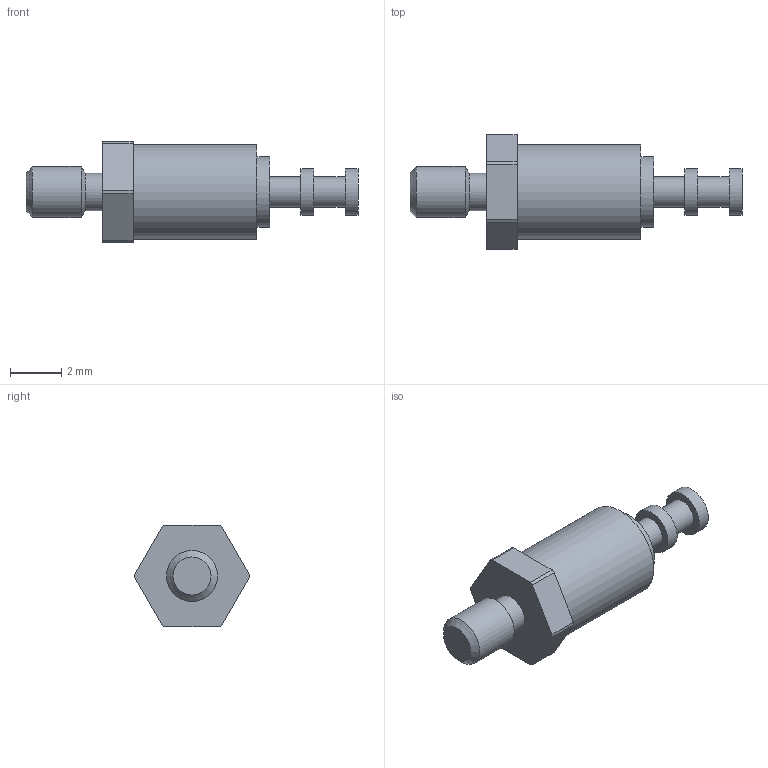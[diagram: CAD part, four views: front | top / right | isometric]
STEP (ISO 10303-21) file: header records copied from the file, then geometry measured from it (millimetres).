
FILE_DESCRIPTION(/* description */ (''),/* implementation_level */ '2;1');
FILE_NAME(/* name */ '\\Snap1\dwgs\Customer 3D Models\572\572-4906-01 Customer model.stp',/* time_stamp */ '2017-01-12T16:06:52+00:00',/* author */ ('paulk'),/* organization */ (''),/* preprocessor_version */ 'ST-DEVELOPER v15.2',/* originating_system */ 'Autodesk Inventor 2014',/* authorisation */ '');
FILE_SCHEMA (('CONFIG_CONTROL_DESIGN'));
Length unit declared in the file: millimetre
Products named in the file (1): 572-4906-01 Customer model
Bounding box: 13.01 x 4.5 x 3.96 mm (x, y, z)
Volume: 85.2 mm3; surface area: 144.2 mm2
Topology: 1 solids, 1 shells, 31 faces, 63 edges, 41 vertices
Faces by surface type: plane 15, cylinder 14, cone 2
Full cylindrical faces by diameter (mm): 1.194 x2, 1.47 x1, 1.829 x2, 2 x1, 2.769 x1, 3.708 x1
Entity records: 845 total; most frequent: DIRECTION 146, CARTESIAN_POINT 126, ORIENTED_EDGE 106, AXIS2_PLACEMENT_3D 61, EDGE_CURVE 53, EDGE_LOOP 48, VERTEX_POINT 41, STYLED_ITEM 32
